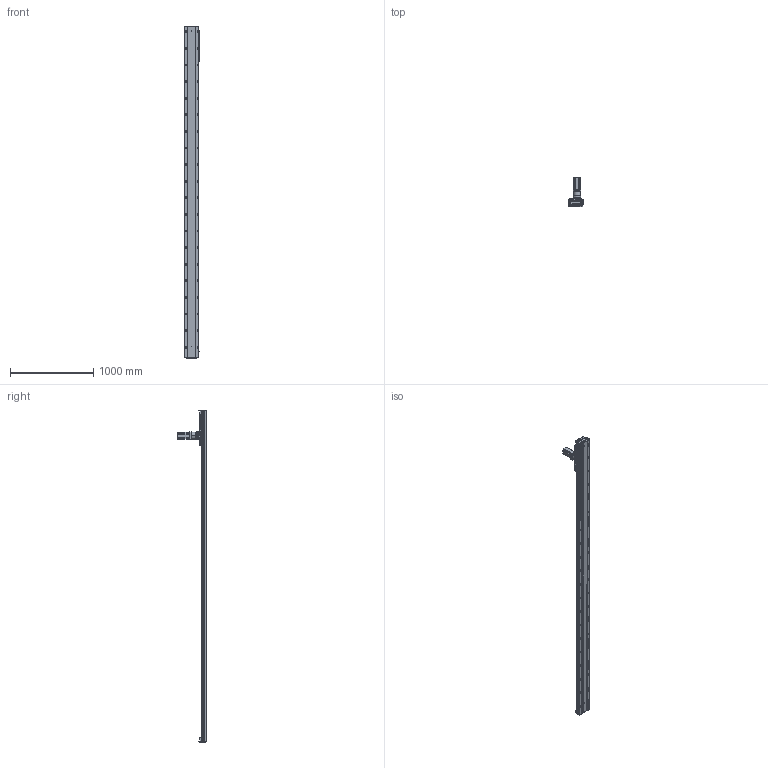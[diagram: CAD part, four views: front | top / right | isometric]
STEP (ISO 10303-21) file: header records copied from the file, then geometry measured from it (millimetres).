
FILE_DESCRIPTION (( 'STEP AP203' ), '1' );
FILE_NAME ('RY170-C-1000-UK.SLDASM_3500.step', '2021-03-03T00:48:59', ( '盈信电脑' ), ( '东莞市道滘镇水果街19号' ), 'SwSTEP 2.0', 'SolidWorks 2012', '' );
FILE_SCHEMA (( 'CONFIG_CONTROL_DESIGN' ));
Products named in the file (13): RY170-喘沭賑輸; RY170-C-1000-UK.SLDASM_3500; 左旋斜齿齿轮_M2_22齿_内孔20; TF080等撰; RY170-喘沭滅袉蝶輸; 怢湛750W萇儂ㄗ80遺ㄘ; 覜茼ん672; RY170-喘謫萇儂覃誹啣; RY170外置感应片(200共用）; RY170-1000-喘沭耀郪絳寢EGH20CA_3500; 絳寢賑輸EGH20CA; RY170綴裔啣ㄗ蜊秶ㄘ; RY170-1000齿条模组型材底座_3500
Assembly tree (22 placements, depth 2):
  RY170-C-1000-UK.SLDASM_3500
    RY170-1000齿条模组型材底座_3500
    絳寢賑輸EGH20CA  x6
    RY170-1000-喘沭耀郪絳寢EGH20CA_3500  x2
    RY170綴裔啣ㄗ蜊秶ㄘ  x2
    覜茼ん672  x3
    RY170外置感应片(200共用）
    RY170-喘謫萇儂覃誹啣
    怢湛750W萇儂ㄗ80遺ㄘ
    RY170-喘沭滅袉蝶輸  x2
    TF080等撰
    左旋斜齿齿轮_M2_22齿_内孔20
    RY170-喘沭賑輸
Bounding box: 188.7 x 343.5 x 4000 mm (x, y, z)
Volume: 19505489.2 mm3; surface area: 5088694.3 mm2
Topology: 24 solids, 24 shells, 5153 faces, 14718 edges, 9358 vertices
Faces by surface type: plane 2363, cylinder 2284, cone 452, bspline 50, torus 4
Entity records: 121270 total; most frequent: CARTESIAN_POINT 30038, ORIENTED_EDGE 19262, DIRECTION 18438, EDGE_CURVE 9631, AXIS2_PLACEMENT_3D 6907, VERTEX_POINT 6258, VECTOR 4624, LINE 4624
